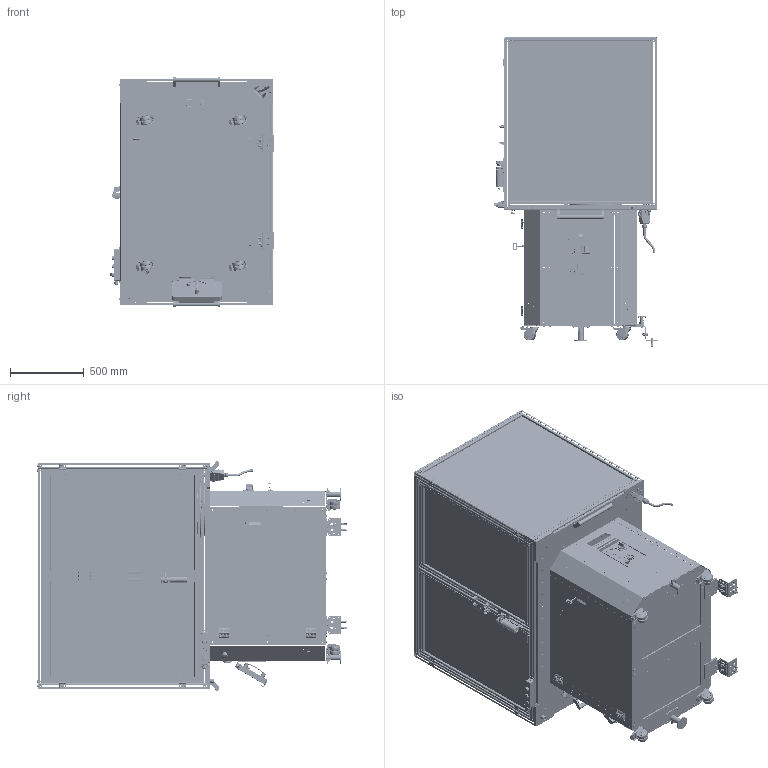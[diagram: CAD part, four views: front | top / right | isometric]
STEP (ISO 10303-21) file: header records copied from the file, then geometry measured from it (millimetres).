
FILE_DESCRIPTION (( 'STEP AP214' ), '1' );
FILE_NAME ('Solution_Kit_Machine_Tending.STEP', '2023-10-26T14:12:13', ( '' ), ( '' ), 'SwSTEP 2.0', 'SolidWorks 2019', '' );
FILE_SCHEMA (( 'AUTOMOTIVE_DESIGN' ));
Length unit declared in the file: millimetre
Products named in the file (10): Maschinenschnittstelle_offenes_Kabelende; Maschinenschnittstelle; Component_Kit_SCHUNK_Doppelgreifer_DJP; Halterung_horstPANEL; Andockstation; H1000_simple; MRB_L_with_Safety; HorstPanel_part; Horst_Control; Solution_Kit_Machine_Tending
Assembly tree (9 placements, depth 2):
  Solution_Kit_Machine_Tending
    MRB_L_with_Safety
    Maschinenschnittstelle
    Maschinenschnittstelle_offenes_Kabelende
    H1000_simple
    Component_Kit_SCHUNK_Doppelgreifer_DJP
    Halterung_horstPANEL
    HorstPanel_part
    Horst_Control
    Andockstation
Bounding box: 1109.4 x 2093.17 x 1553.29 mm (x, y, z)
Volume: 457639.7 mm3; surface area: 25654579 mm2
Topology: 1 solids, 1227 shells, 17185 faces, 61326 edges, 45175 vertices
Faces by surface type: plane 7744, cylinder 5089, bspline 2649, cone 1081, torus 474, sphere 148
Entity records: 943513 total; most frequent: CARTESIAN_POINT 254248, ORIENTED_EDGE 98908, DIRECTION 98780, EDGE_CURVE 61153, VERTEX_POINT 45147, VECTOR 33422, LINE 33422, AXIS2_PLACEMENT_3D 32679
